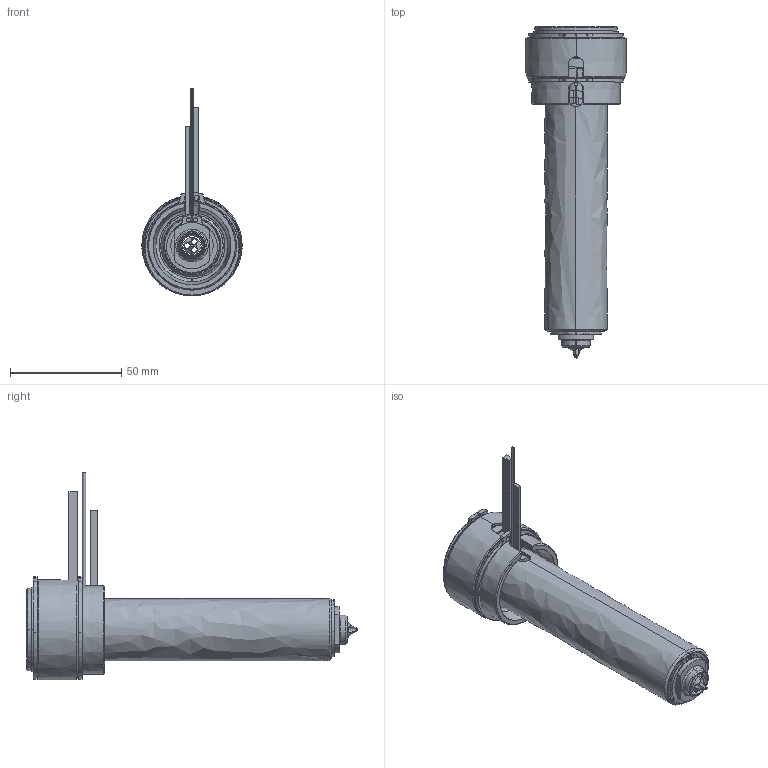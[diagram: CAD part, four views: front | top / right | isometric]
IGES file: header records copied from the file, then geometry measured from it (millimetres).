
Start section: SolidWorks IGES file using analytic representation for surfaces
Global section: file name: C:\Documents and Settings\ws-20\Desktop\TEM\UGEP4503-M-A-1 [Øf-1.17 ØC-09].IGS; native system: SolidWorks 2012; preprocessor: SolidWorks 2012; author: ws-20; date: 120424.085621; units: millimetre
Bounding box: 45 x 149.05 x 93.15 mm (x, y, z)
Surface area: 54446.5 mm2 (no closed solid volume)
Topology: 0 solids, 0 shells, 181 faces, 3371 edges, 3371 vertices
Faces by surface type: revolution 113, bspline 68
